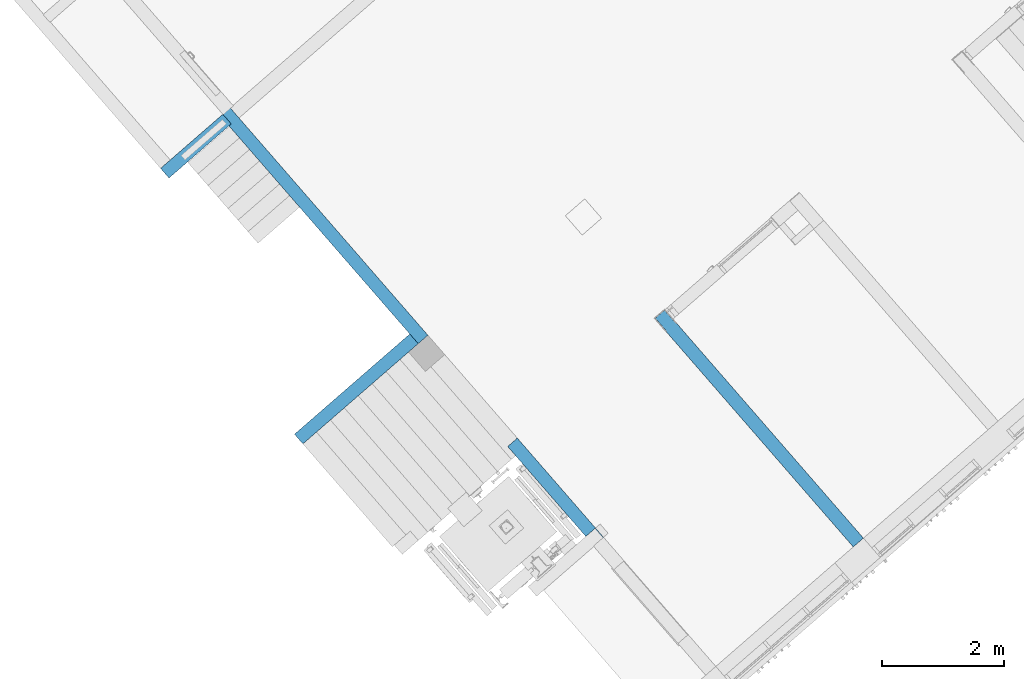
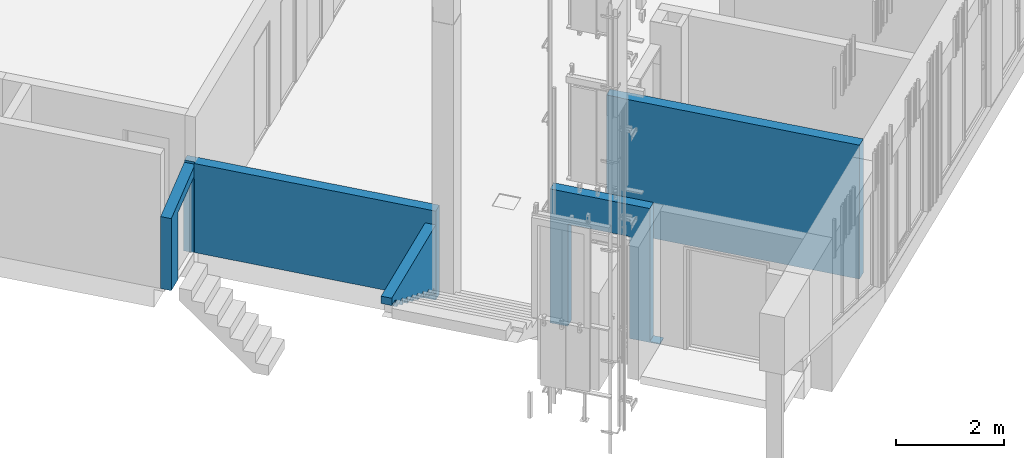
# One storey, part 42 of 124: 5 walls.
"""IFC2X3 building model written with IfcOpenShell, lengths in millimetres."""

import ifcopenshell
import ifcopenshell.guid

model = None  # the IFC model being written
_history = None  # IfcOwnerHistory: only IFC2X3 demands one
_inside = {}  # id of a spatial element -> (the spatial element, [elements in it])
_under = {}  # id of a project, library or spatial element -> (it, [spatial elements below it])
_declared = {}  # id of a project -> (the project, [libraries it declares])
_typed = {}  # id of a type object -> (the type object, [elements of that type])
_made_of = {}  # id of a material, layer set ... -> (it, [elements and type objects made of it])


def new_model(schema):
    """Start an empty IFC model of exactly this schema.

    Asked for "IFC4X3", IfcOpenShell would pick the latest addendum, in which some entities
    have other attributes; the version numbers below select the first issue.
    IFC2X3 requires an IfcOwnerHistory on every rooted entity: one is made here for all.
    """
    global model, _history
    if schema == "IFC4X3":
        model = ifcopenshell.file(schema_version=(4, 3, 0, 0))
    else:
        model = ifcopenshell.file(schema=schema)
    _inside.clear()
    _under.clear()
    _declared.clear()
    _typed.clear()
    _made_of.clear()
    _history = None
    if model.schema == "IFC2X3":
        org = make("IfcOrganization", Name="unknown")
        user = make(
            "IfcPersonAndOrganization",
            ThePerson=make("IfcPerson", FamilyName="unknown"),
            TheOrganization=org,
        )
        app = make(
            "IfcApplication",
            ApplicationDeveloper=org,
            Version="unknown",
            ApplicationFullName="unknown",
            ApplicationIdentifier="unknown",
        )
        _history = make(
            "IfcOwnerHistory",
            OwningUser=user,
            OwningApplication=app,
            ChangeAction="ADDED",
            CreationDate=0,
        )
    return model


def make(cls, **values):
    """One entity of the class cls with the attributes given. An attribute that is None is left unset."""
    return model.create_entity(
        cls, **{name: value for name, value in values.items() if value is not None}
    )


def entity(cls, *values):
    """Any entity or typed value of the class cls, its attributes in the order of the schema. None: left unset."""
    e = model.create_entity(cls)
    for i, value in enumerate(values):
        if value is not None:
            e[i] = value
    return e


def rooted(cls, **values):
    """An entity with a GlobalId (a new one), such as an element, a storey or a relation."""
    return make(cls, GlobalId=ifcopenshell.guid.new(), OwnerHistory=_history, **values)


def si_unit(unit_type, name, prefix=None):
    """IfcSIUnit, for example si_unit("LENGTHUNIT", "METRE", prefix="MILLI")."""
    return make("IfcSIUnit", UnitType=unit_type, Prefix=prefix, Name=name)


def converted_unit(unit_type, name, factor, base, dimensions=None, offset=None):
    """IfcConversionBasedUnit, such as the inch: factor (a typed value) times the base unit."""
    return make(
        "IfcConversionBasedUnit"
        if offset is None
        else "IfcConversionBasedUnitWithOffset",
        ConversionOffset=offset,
        Dimensions=None
        if dimensions is None
        else entity("IfcDimensionalExponents", *dimensions),
        UnitType=unit_type,
        Name=name,
        ConversionFactor=make(
            "IfcMeasureWithUnit", ValueComponent=factor, UnitComponent=base
        ),
    )


def derived_unit(unit_type, elements):
    """IfcDerivedUnit: a product of units, each with its exponent."""
    return make(
        "IfcDerivedUnit",
        Elements=[
            make("IfcDerivedUnitElement", Unit=unit, Exponent=power)
            for unit, power in elements
        ],
        UnitType=unit_type,
    )


def money_unit(currency):
    """IfcMonetaryUnit."""
    return make("IfcMonetaryUnit", Currency=currency)


def assignment(units):
    """IfcUnitAssignment: the units of a project."""
    return None if units is None else make("IfcUnitAssignment", Units=units)


def point(xyz):
    """IfcCartesianPoint."""
    return None if xyz is None else make("IfcCartesianPoint", Coordinates=xyz)


def direction(xyz):
    """IfcDirection."""
    return None if xyz is None else make("IfcDirection", DirectionRatios=xyz)


def frame(location, z_axis=None, x_axis=None):
    """IfcAxis2Placement3D, a coordinate frame: its origin and axes. An axis left out is left unset."""
    return make(
        "IfcAxis2Placement3D",
        Location=point(location),
        Axis=direction(z_axis),
        RefDirection=direction(x_axis),
    )


def origin_with_axes():
    """The frame at (0, 0, 0) with the z axis (0, 0, 1) and the x axis (1, 0, 0) written out."""
    return frame((0.0, 0.0, 0.0), z_axis=(0.0, 0.0, 1.0), x_axis=(1.0, 0.0, 0.0))


def place(relative_to, where):
    """IfcLocalPlacement: puts the frame where relative to a parent placement (None: the world)."""
    return make(
        "IfcLocalPlacement", PlacementRelTo=relative_to, RelativePlacement=where
    )


def context(
    kind, dimensions, precision=None, world=None, true_north=None, identifier=None
):
    """IfcGeometricRepresentationContext, for example the 3D "Model" context."""
    return make(
        "IfcGeometricRepresentationContext",
        ContextIdentifier=identifier,
        ContextType=kind,
        CoordinateSpaceDimension=dimensions,
        Precision=precision,
        WorldCoordinateSystem=world,
        TrueNorth=true_north,
    )


def subcontext(parent, identifier, kind, view, scale=None):
    """IfcGeometricRepresentationSubContext, for example "Body" below "Model"."""
    return make(
        "IfcGeometricRepresentationSubContext",
        ContextIdentifier=identifier,
        ContextType=kind,
        ParentContext=parent,
        TargetScale=scale,
        TargetView=view,
    )


def project(units=None, contexts=None):
    """IfcProject with its units and contexts."""
    return rooted(
        "IfcProject",
        Name="project",
        RepresentationContexts=contexts,
        UnitsInContext=assignment(units),
    )


def spatial(cls, under=None, at=None, **own):
    """A site, building, storey or space (cls), placed at a placement, below another one or the project."""
    s = rooted(cls, ObjectPlacement=at, **own)
    if under is not None:
        _under.setdefault(under.id(), (under, []))[1].append(s)
    return s


def faces_of(points, faces, orient=None, outer=None):
    """IfcFace entities. A face is a list of loops; a loop is a list of indices into points, from 0.

    orient and outer hold one flag for each loop. By default every Orientation is true, the
    first loop of a face is its IfcFaceOuterBound and the others are IfcFaceBound.
    """
    made = []
    for i, loops in enumerate(faces):
        bounds = []
        for j, loop in enumerate(loops):
            is_outer = j == 0 if outer is None else outer[i][j]
            bounds.append(
                make(
                    "IfcFaceOuterBound" if is_outer else "IfcFaceBound",
                    Bound=make("IfcPolyLoop", Polygon=[points[k] for k in loop]),
                    Orientation=True if orient is None else orient[i][j],
                )
            )
        made.append(make("IfcFace", Bounds=bounds))
    return made


def faceted_brep(points, faces, orient=None, outer=None, voids=None):
    """IfcFacetedBrep: a solid bounded by flat faces; with voids (closed shells), ...WithVoids."""
    shared = [point(p) for p in points]
    hull = make("IfcClosedShell", CfsFaces=faces_of(shared, faces, orient, outer))
    if voids is None:
        return make("IfcFacetedBrep", Outer=hull)
    return make(
        "IfcFacetedBrepWithVoids",
        Outer=hull,
        Voids=[
            make(cls, CfsFaces=faces_of(shared, fs, o, b)) for cls, fs, o, b in voids
        ],
    )


def shape(context_of_items, identifier, shape_type, items):
    """IfcShapeRepresentation: the items that make up one representation, for example the "Body"."""
    return make(
        "IfcShapeRepresentation",
        ContextOfItems=context_of_items,
        RepresentationIdentifier=identifier,
        RepresentationType=shape_type,
        Items=items,
    )


def material(Name=None, Category=None):
    """IfcMaterial."""
    return make("IfcMaterial", Name=Name, Category=Category)


def material_list(materials):
    """IfcMaterialList."""
    return make("IfcMaterialList", Materials=materials)


def made_of(thing, what):
    """Note that an element or type object is made of a material, layer set ...; save() writes the relation."""
    if what is not None:
        _made_of.setdefault(what.id(), (what, []))[1].append(thing)
    return thing


def type_object(cls, material=None, **own):
    """A type object (cls), such as IfcWallType, which elements share."""
    return made_of(rooted(cls, **own), material)


def element(
    cls,
    number,
    at=None,
    inside=None,
    cuts=None,
    type_object=None,
    material=None,
    context=None,
    identifier="Body",
    shape_type=None,
    held_by="IfcProductDefinitionShape",
    body=None,
    shapes=None,
    **own,
):
    """One element of the class cls, such as IfcWall. Its Tag is "e" and its number.

    at: its placement. inside: the storey or other place that contains it. cuts: it is an
    opening in that element (IfcRelVoidsElement). A single representation is given by context,
    identifier, shape_type and body (its items); several are given by shapes. held_by: the class
    of the entity that holds the representations. save() writes the other relations.
    """
    e = rooted(cls, Tag="e%d" % number, ObjectPlacement=at, **own)
    if body is not None:
        shapes = [shape(context, identifier, shape_type, body)]
    if shapes is not None:
        e.Representation = make(held_by, Representations=shapes)
    if inside is not None:
        _inside.setdefault(inside.id(), (inside, []))[1].append(e)
    if cuts is not None:
        rooted(
            "IfcRelVoidsElement", RelatingBuildingElement=cuts, RelatedOpeningElement=e
        )
    if type_object is not None:
        _typed.setdefault(type_object.id(), (type_object, []))[1].append(e)
    return made_of(e, material)


def aggregate(whole, parts):
    """IfcRelAggregates: a whole, such as a stair, and the parts it consists of."""
    return rooted("IfcRelAggregates", RelatingObject=whole, RelatedObjects=parts)


def save(model, path):
    """Write the relations noted so far, then the file.

    IfcRelAggregates (storeys below a building ...), IfcRelContainedInSpatialStructure (elements
    in a storey), IfcRelDefinesByType, IfcRelAssociatesMaterial and IfcRelDeclares: one each for
    every whole, place, type object, material and project.
    """
    for whole, parts in _under.values():
        aggregate(whole, parts)
    for where, things in _inside.values():
        rooted(
            "IfcRelContainedInSpatialStructure",
            RelatedElements=things,
            RelatingStructure=where,
        )
    for kind, things in _typed.values():
        rooted("IfcRelDefinesByType", RelatedObjects=things, RelatingType=kind)
    for what, things in _made_of.values():
        rooted("IfcRelAssociatesMaterial", RelatedObjects=things, RelatingMaterial=what)
    for by, libraries in _declared.values():
        rooted("IfcRelDeclares", RelatingContext=by, RelatedDefinitions=libraries)
    model.write(path)


model = new_model("IFC2X3")

# Units and contexts
model_context = context("Model", 3, precision=1e-05, world=origin_with_axes(), true_north=direction((0.0, 1.0)))
body_context = subcontext(model_context, "Body", "Model", "MODEL_VIEW")
ifc_project = project(units=[si_unit("LENGTHUNIT", "METRE", prefix="MILLI"), si_unit("AREAUNIT", "SQUARE_METRE"), si_unit("VOLUMEUNIT", "CUBIC_METRE"), converted_unit("PLANEANGLEUNIT", "DEGREE", entity("IfcPlaneAngleMeasure", 0.0174532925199), si_unit("PLANEANGLEUNIT", "RADIAN"), dimensions=[0, 0, 0, 0, 0, 0, 0]), si_unit("SOLIDANGLEUNIT", "STERADIAN"), money_unit("EUR"), converted_unit("TIMEUNIT", "Year", entity("IfcTimeMeasure", 31556926.0), si_unit("TIMEUNIT", "SECOND"), dimensions=[0, 0, 1, 0, 0, 0, 0]), si_unit("MASSUNIT", "GRAM", prefix="KILO"), si_unit("THERMODYNAMICTEMPERATUREUNIT", "DEGREE_CELSIUS"), si_unit("LUMINOUSINTENSITYUNIT", "LUMEN"), si_unit("ENERGYUNIT", "JOULE", prefix="MEGA"), derived_unit("THERMALCONDUCTANCEUNIT", [(si_unit("POWERUNIT", "WATT"), 1), (si_unit("LENGTHUNIT", "METRE"), -1), (si_unit("THERMODYNAMICTEMPERATUREUNIT", "KELVIN"), -1)]), derived_unit("SPECIFICHEATCAPACITYUNIT", [(si_unit("ENERGYUNIT", "JOULE"), 1), (si_unit("MASSUNIT", "GRAM", prefix="KILO"), -1), (si_unit("THERMODYNAMICTEMPERATUREUNIT", "KELVIN"), -1)]), derived_unit("MASSDENSITYUNIT", [(si_unit("MASSUNIT", "GRAM", prefix="KILO"), 1), (si_unit("VOLUMEUNIT", "CUBIC_METRE"), -1)])], contexts=[model_context])

# Site, building, storey
site_placement = place(None, origin_with_axes())
site = spatial("IfcSite", under=ifc_project, at=site_placement, Name="Site", CompositionType="ELEMENT")
building_placement = place(site_placement, origin_with_axes())
building = spatial("IfcBuilding", under=site, at=building_placement, Name="Building", CompositionType="ELEMENT")
storey_placement = place(building_placement, frame((0.0, 0.0, -1615.0), z_axis=(0.0, 0.0, 1.0), x_axis=(1.0, 0.0, 0.0)))
storey = spatial("IfcBuildingStorey", under=building, at=storey_placement, Name="0  korrus", CompositionType="ELEMENT", Elevation=-1615.0)

# Walls
ifc_material_1 = material(Name="Krohv - Lubjakivi")
ifc_material_2 = material(Name="Müüriplokk - Konstuktsioon")
ifc_material_list_1 = material_list([ifc_material_1, ifc_material_2, ifc_material_1])
wall_type_1 = type_object("IfcWallType", Name="SS-01", PredefinedType="NOTDEFINED")
wall_1_placement = place(storey_placement, frame((149531.659367, 81880.2262543, -20.0), z_axis=(0.0, 0.0, 1.0), x_axis=(0.656059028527, -0.754709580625, 0.0)))
element("IfcWall", 1, at=wall_1_placement, inside=storey, type_object=wall_type_1, material=ifc_material_list_1, Name="SS-01", context=body_context, shape_type="Brep", body=[
    faceted_brep([(300.0, 220.0, 0.0), (300.0, 220.0, 3020.0), (4960.0, 220.0, 3020.0), (4960.0, 220.0, 0.0), (300.0, 210.0, 3020.0), (300.0, 210.0, 0.0), (4960.0, 210.0, 3020.0), (4960.0, 210.0, 0.0)], [[[0, 1, 2, 3]], [[4, 1, 0, 5]], [[1, 4, 6, 2]], [[6, 7, 3, 2]], [[5, 0, 3, 7]], [[4, 5, 7, 6]]]),
    faceted_brep([(10.0, 210.0, 0.0), (10.0, 210.0, 3020.0), (4960.0, 210.0, 3020.0), (4960.0, 210.0, 0.0), (10.0, 10.0, 3020.0), (10.0, 10.0, 0.0), (4960.0, 10.0, 3020.0), (4960.0, 10.0, 0.0)], [[[0, 1, 2, 3]], [[4, 1, 0, 5]], [[1, 4, 6, 2]], [[2, 6, 7, 3]], [[5, 0, 3, 7]], [[4, 5, 7, 6]]]),
    faceted_brep([(300.0, 9.99999999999, 0.0), (300.0, 9.99999999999, 3020.0), (4960.0, 10.0, 3020.0), (4960.0, 10.0, 0.0), (300.0, 0.0, 3020.0), (300.0, 0.0, 0.0), (4960.0, 0.0, 3020.0), (4960.0, 0.0, 0.0)], [[[0, 1, 2, 3]], [[4, 1, 0, 5]], [[1, 4, 6, 2]], [[6, 7, 3, 2]], [[5, 0, 3, 7]], [[4, 5, 7, 6]]]),
])
ifc_material_list_2 = material_list([ifc_material_1, ifc_material_2])
wall_2_placement = place(storey_placement, frame((145529.911732, 81621.3417929, -20.0), z_axis=(0.0, 0.0, 1.0), x_axis=(-0.754709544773, -0.656059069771, 0.0)))
element("IfcWall", 2, at=wall_2_placement, inside=storey, type_object=wall_type_1, material=ifc_material_list_2, Name="SS-02", context=body_context, shape_type="Brep", body=[
    faceted_brep([(92.0001454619, 210.000116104, 343.0), (92.0001454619, 210.000116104, 181.5), (-0.000737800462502, 209.999999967, 181.5), (-0.000737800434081, 209.999999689, 1699.61736279), (2499.99932024, 209.999997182, 1699.61736279), (2499.99932024, 210.000116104, 1535.0), (2299.99923977, 210.000011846, 1535.0), (2299.99923977, 210.000011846, 1473.5), (2206.00014546, 210.000116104, 1473.5), (2206.00014546, 210.000116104, 1312.0), (1904.00014546, 210.000116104, 1312.0), (1904.00014546, 210.000116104, 1150.5), (1602.00014546, 210.000116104, 1150.5), (1602.00014546, 210.000116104, 989.0), (1300.00014546, 210.000116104, 989.0), (1300.00014546, 210.000116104, 827.5), (998.000145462, 210.000116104, 827.5), (998.000145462, 210.000116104, 666.0), (696.000145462, 210.000116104, 666.0), (696.000145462, 210.000116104, 504.5), (394.000145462, 210.000116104, 504.5), (394.000145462, 210.000116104, 343.0), (92.0001485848, 200.000000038, 343.0), (92.0001485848, 200.000000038, 181.5), (-0.000736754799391, 200.0, 181.5), (-0.000736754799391, 200.000000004, 1699.61736279), (2499.99932024, 200.000000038, 1699.61736279), (2499.99931968, 200.000000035, 1535.0), (2299.9992394, 200.000000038, 1535.0), (2299.9992394, 200.000000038, 1473.5), (2206.00014858, 200.000000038, 1473.5), (2206.00014858, 200.000000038, 1312.0), (1904.00014858, 200.000000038, 1312.0), (1904.00014858, 200.000000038, 1150.5), (1602.00014858, 200.000000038, 1150.5), (1602.00014858, 200.000000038, 989.0), (1300.00014858, 200.000000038, 989.0), (1300.00014858, 200.000000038, 827.5), (998.000148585, 200.000000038, 827.5), (998.000148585, 200.000000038, 666.0), (696.000148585, 200.000000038, 666.0), (696.000148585, 200.000000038, 504.5), (394.000148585, 200.000000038, 504.5), (394.000148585, 200.000000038, 343.0)], [[[0, 1, 2, 3, 4, 5, 6, 7, 8, 9, 10, 11, 12, 13, 14, 15, 16, 17, 18, 19, 20, 21]], [[1, 0, 22, 23]], [[24, 2, 1, 23]], [[2, 24, 25, 3]], [[26, 4, 3, 25]], [[4, 26, 27, 5]], [[27, 28, 6, 5]], [[29, 7, 6, 28]], [[8, 7, 29, 30]], [[9, 8, 30, 31]], [[10, 9, 31, 32]], [[11, 10, 32, 33]], [[12, 11, 33, 34]], [[13, 12, 34, 35]], [[14, 13, 35, 36]], [[15, 14, 36, 37]], [[16, 15, 37, 38]], [[17, 16, 38, 39]], [[18, 17, 39, 40]], [[19, 18, 40, 41]], [[20, 19, 41, 42]], [[21, 20, 42, 43]], [[0, 21, 43, 22]], [[30, 29, 28, 27, 26, 25, 24, 23, 22, 43, 42, 41, 40, 39, 38, 37, 36, 35, 34, 33, 32, 31]]]),
    faceted_brep([(92.0001485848, 200.000000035, 343.0), (92.0001485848, 200.000000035, 181.5), (-0.000736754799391, 200.0, 181.5), (-0.000736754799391, 200.000000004, 1699.61736279), (2499.99932024, 200.000000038, 1699.61736279), (2499.99931968, 200.000000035, 1535.0), (2299.9992394, 200.000000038, 1535.0), (2299.9992394, 200.000000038, 1473.5), (2206.00014858, 200.000000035, 1473.5), (2206.00014858, 200.000000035, 1312.0), (1904.00014858, 200.000000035, 1312.0), (1904.00014858, 200.000000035, 1150.5), (1602.00014858, 200.000000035, 1150.5), (1602.00014858, 200.000000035, 989.0), (1300.00014858, 200.000000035, 989.0), (1300.00014858, 200.000000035, 827.5), (998.000148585, 200.000000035, 827.5), (998.000148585, 200.000000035, 666.0), (696.000148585, 200.000000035, 666.0), (696.000148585, 200.000000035, 504.5), (394.000148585, 200.000000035, 504.5), (394.000148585, 200.000000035, 343.0), (92.0002110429, -0.000655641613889, 343.0), (92.0002110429, -0.000655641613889, 181.5), (-0.000715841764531, -0.000684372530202, 181.5), (-0.000715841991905, 0.0, 1699.61736279), (2499.99932024, 0.0, 1699.61736279), (2499.99930855, 0.0, 1535.0), (2299.99923196, 0.0, 1535.0), (2299.99923196, 3.38932011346e-05, 1473.5), (2206.00021104, 4.53829329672e-06, 1473.5), (2206.00021104, 4.53829329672e-06, 1312.0), (1904.00021104, -8.97731240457e-05, 1312.0), (1904.00021104, -8.97731240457e-05, 1150.5), (1602.00021104, -0.000184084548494, 1150.5), (1602.00021104, -0.000184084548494, 989.0), (1300.00021104, -0.000278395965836, 989.0), (1300.00021104, -0.000278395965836, 827.5), (998.000211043, -0.000372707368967, 827.5), (998.000211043, -0.000372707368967, 666.0), (696.000211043, -0.000467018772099, 666.0), (696.000211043, -0.000467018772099, 504.5), (394.000211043, -0.000561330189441, 504.5), (394.000211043, -0.000561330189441, 343.0)], [[[0, 1, 2, 3, 4, 5, 6, 7, 8, 9, 10, 11, 12, 13, 14, 15, 16, 17, 18, 19, 20, 21]], [[1, 0, 22, 23]], [[24, 2, 1, 23]], [[2, 24, 25, 3]], [[26, 4, 3, 25]], [[4, 26, 27, 5]], [[27, 28, 6, 5]], [[29, 7, 6, 28]], [[8, 7, 29, 30]], [[9, 8, 30, 31]], [[10, 9, 31, 32]], [[11, 10, 32, 33]], [[12, 11, 33, 34]], [[13, 12, 34, 35]], [[14, 13, 35, 36]], [[15, 14, 36, 37]], [[16, 15, 37, 38]], [[17, 16, 38, 39]], [[18, 17, 39, 40]], [[19, 18, 40, 41]], [[20, 19, 41, 42]], [[21, 20, 42, 43]], [[0, 21, 43, 22]], [[30, 29, 28, 27, 26, 25, 24, 23, 22, 43, 42, 41, 40, 39, 38, 37, 36, 35, 34, 33, 32, 31]]]),
])
ifc_material_list_3 = material_list([ifc_material_2, ifc_material_1])
wall_3_placement = place(storey_placement, frame((145667.684829, 81462.8531162, -20.0), z_axis=(0.0, 0.0, 1.0), x_axis=(-0.656059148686, 0.754709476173, 0.0)))
element("IfcWall", 3, at=wall_3_placement, inside=storey, type_object=wall_type_1, material=ifc_material_list_3, Name="SS-02", context=body_context, shape_type="Brep", body=[
    faceted_brep([(4930.00011569, -50.0007925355, 2008.22702277), (4720.00011569, -50.0007591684, 2008.22702277), (4720.00012364, 0.0, 2008.22702277), (0.0, 0.0, 2008.22702277), (0.0, -200.0, 2008.22702277), (4930.00009254, -200.0, 2008.22702277), (4930.00011569, -50.0007925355, 1660.0), (4720.00011569, -50.0007591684, 1660.0), (4720.00012364, -1.1622915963e-05, 1660.0), (4710.00004521, -1.1622915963e-05, 1660.0), (4710.00004521, -1.1622915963e-05, 0.0), (0.0, 0.0, 0.0), (0.0, -200.0, 0.0), (4710.00004521, -199.99999702, 0.0), (4710.00004521, -199.99999702, 1660.0), (4930.00009254, -199.99999702, 1660.0)], [[[0, 1, 2, 3, 4, 5]], [[6, 7, 1, 0]], [[8, 2, 1, 7]], [[3, 2, 8, 9, 10, 11]], [[3, 11, 12, 4]], [[12, 13, 14, 15, 5, 4]], [[15, 6, 0, 5]], [[8, 7, 6, 15, 14, 9]], [[10, 9, 14, 13]], [[12, 11, 10, 13]]]),
    faceted_brep([(0.0, -210.0, 0.0), (4710.00004521, -210.0, 0.0), (4710.00004521, -210.0, 1660.0), (4930.00009095, -210.0, 1660.0), (4930.00009095, -210.0, 2008.22702277), (0.0, -210.0, 2008.22702277), (0.0, -200.0, 0.0), (4710.00004521, -199.99999702, 0.0), (4710.00004521, -199.99999702, 1660.0), (4930.00009254, -199.99999702, 1660.0), (4930.00009254, -200.0, 2008.22702277), (0.0, -200.0, 2008.22702277)], [[[0, 1, 2, 3, 4, 5]], [[0, 6, 7, 1]], [[7, 8, 2, 1]], [[8, 9, 3, 2]], [[10, 4, 3, 9]], [[11, 5, 4, 10]], [[11, 6, 0, 5]], [[10, 9, 8, 7, 6, 11]]]),
])
ifc_material_3 = material(Name="Raudbetoon - Konstruktsioon")
ifc_material_list_4 = material_list([ifc_material_1, ifc_material_3])
wall_type_2 = type_object("IfcWallType", Name="SS-11", PredefinedType="NOTDEFINED")
wall_4_placement = place(storey_placement, frame((147261.908196, 79628.9089312, -20.0), z_axis=(0.0, 0.0, 1.0), x_axis=(0.656059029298, -0.754709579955, 0.0)))
element("IfcWall", 4, at=wall_4_placement, inside=storey, type_object=wall_type_2, material=ifc_material_list_4, Name="SS-11", context=body_context, shape_type="Brep", body=[
    faceted_brep([(150.0, 210.0, 2300.0), (150.0, 210.0, 20.0), (150.0, 210.0, 0.0), (-209.999999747, 210.0, 0.0), (-209.999999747, 210.0, 3020.0), (1749.99914965, 210.0, 3020.0), (1749.99914965, 210.0, 20.0), (1949.99900711, 210.0, 20.0), (1949.99900711, 210.0, 0.0), (1350.0, 210.0, 0.0), (1350.0, 210.0, 20.0), (1350.0, 210.0, 2300.0), (150.0, 200.0, 2300.0), (150.0, 200.0, 20.0), (150.0, 200.0, 0.0), (-209.999999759, 200.0, 0.0), (-209.999999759, 200.0, 3020.0), (1749.99914965, 200.0, 3020.0), (1749.99914965, 200.0, 20.0), (1949.9990139, 200.0, 20.0), (1949.9990139, 200.0, 0.0), (1350.0, 200.0, 0.0), (1350.0, 200.0, 20.0), (1350.0, 200.0, 2300.0)], [[[0, 1, 2, 3, 4, 5, 6, 7, 8, 9, 10, 11]], [[1, 0, 12, 13]], [[1, 13, 14, 2]], [[14, 15, 3, 2]], [[3, 15, 16, 4]], [[17, 5, 4, 16]], [[6, 5, 17, 18]], [[19, 7, 6, 18]], [[7, 19, 20, 8]], [[9, 8, 20, 21]], [[22, 10, 9, 21]], [[11, 10, 22, 23]], [[0, 11, 23, 12]], [[23, 22, 21, 20, 19, 18, 17, 16, 15, 14, 13, 12]]]),
    faceted_brep([(150.0, 200.0, 2300.0), (150.0, 200.0, 20.0), (150.0, 200.0, 0.0), (-199.999999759, 200.0, 0.0), (-199.999999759, 200.0, 3020.0), (1749.99914965, 200.0, 3020.0), (1749.99914965, 200.0, 20.0), (1949.9990139, 200.0, 20.0), (1949.9990139, 200.0, 0.0), (1350.0, 200.0, 0.0), (1350.0, 200.0, 20.0), (1350.0, 200.0, 2300.0), (150.0, 2.71626277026e-07, 2300.0), (150.0, 0.0, 20.0), (150.0, 0.0, 0.0), (-200.0, 0.0, 0.0), (-200.0, 0.0, 3020.0), (1749.99914965, 0.0, 3020.0), (1749.99914965, 0.0, 20.0), (1949.99914965, 0.0, 20.0), (1949.99914965, 0.0, 0.0), (1350.0, 2.71654698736e-07, 0.0), (1350.0, 2.71626277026e-07, 20.0), (1350.0, 2.71626277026e-07, 2300.0)], [[[0, 1, 2, 3, 4, 5, 6, 7, 8, 9, 10, 11]], [[1, 0, 12, 13]], [[1, 13, 14, 2]], [[14, 15, 3, 2]], [[3, 15, 16, 4]], [[17, 5, 4, 16]], [[6, 5, 17, 18]], [[19, 7, 6, 18]], [[7, 19, 20, 8]], [[9, 8, 20, 21]], [[22, 10, 9, 21]], [[11, 10, 22, 23]], [[0, 11, 23, 12]], [[23, 22, 21, 20, 19, 18, 17, 16, 15, 14, 13, 12]]]),
])
wall_5_placement = place(storey_placement, frame((141589.963684, 84172.2056974, -20.0), z_axis=(0.0, 0.0, 1.0), x_axis=(0.754709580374, 0.656059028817, 0.0)))
element("IfcWall", 5, at=wall_5_placement, inside=storey, type_object=wall_type_2, material=ifc_material_list_4, Name="SS-11", context=body_context, shape_type="Brep", body=[
    faceted_brep([(1350.0000003, 210.0, 1956.65891456), (1350.0000003, 200.0, 1956.65891469), (1350.0000003, 200.0, 0.0), (1350.0000003, 210.0, 0.0), (0.0, 200.0, 1624.10082903), (0.0, 210.0, 1624.10082891), (0.0, 200.0, 0.0), (389.99924868, 200.0, 0.0), (389.999248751, 200.0, 20.0), (389.999248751, 200.0, 1510.00000334), (1289.99924277, 200.0, 1720.00000003), (1289.99924277, 200.0, 20.0), (1289.99924277, 200.0, 0.0), (1289.99924277, 210.0, 0.0), (1289.99924277, 210.0, 20.0), (1289.99924277, 210.0, 1720.00000003), (389.999248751, 210.0, 1510.00000334), (389.999248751, 210.0, 20.0), (389.99924868, 210.0, 0.0), (0.0, 210.0, 0.0)], [[[0, 1, 2, 3]], [[4, 1, 0, 5]], [[1, 4, 6, 7, 8, 9, 10, 11, 12, 2]], [[12, 13, 3, 2]], [[5, 0, 3, 13, 14, 15, 16, 17, 18, 19]], [[4, 5, 19, 6]], [[18, 7, 6, 19]], [[18, 17, 8, 7]], [[16, 9, 8, 17]], [[15, 10, 9, 16]], [[14, 11, 10, 15]], [[12, 11, 14, 13]]]),
    faceted_brep([(1350.0000003, 200.0, 1956.65891469), (1350.0000003, 0.0, 1956.65891718), (1350.0000003, 0.0, 0.0), (1350.0000003, 200.0, 0.0), (0.0, 0.0, 1624.10083153), (0.0, 200.0, 1624.10082903), (0.0, 0.0, 0.0), (389.99924868, 4.72986982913e-07, 0.0), (389.999248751, 4.72972772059e-07, 20.0), (389.999248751, 4.72972772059e-07, 1510.00000334), (1289.99924277, 4.72979877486e-07, 1720.00000003), (1289.99924277, 1.55941393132e-06, 20.0), (1289.99924277, 1.55939972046e-06, 0.0), (1289.99924277, 200.0, 0.0), (1289.99924277, 200.0, 20.0), (1289.99924277, 200.0, 1720.00000003), (389.999248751, 200.0, 1510.00000334), (389.999248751, 200.0, 20.0), (389.99924868, 200.0, 0.0), (0.0, 200.0, 0.0)], [[[0, 1, 2, 3]], [[4, 1, 0, 5]], [[1, 4, 6, 7, 8, 9, 10, 11, 12, 2]], [[12, 13, 3, 2]], [[5, 0, 3, 13, 14, 15, 16, 17, 18, 19]], [[4, 5, 19, 6]], [[18, 7, 6, 19]], [[18, 17, 8, 7]], [[16, 9, 8, 17]], [[15, 10, 9, 16]], [[14, 11, 10, 15]], [[12, 11, 14, 13]]]),
])

save(model, "model.ifc")
